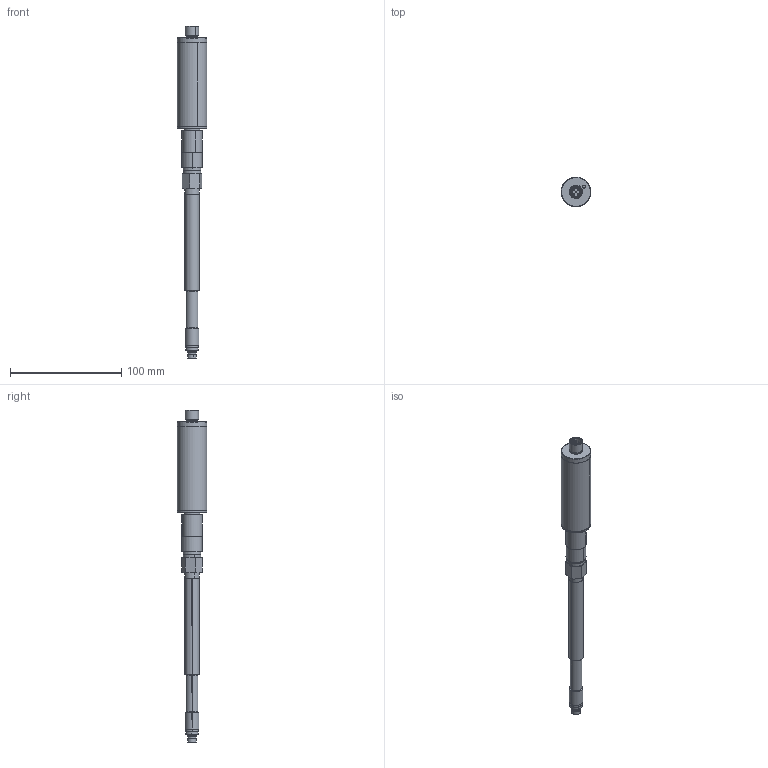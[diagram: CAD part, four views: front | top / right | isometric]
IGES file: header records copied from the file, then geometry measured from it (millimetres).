
Start section: SolidWorks IGES file using analytic representation for surfaces
Global section: file name: C:\Users\daniele.peli\Desktop\Simona\ILI0-A-5-x-xxxx-1-4-0-0.IGS; native system: SolidWorks 2021; preprocessor: SolidWorks 2021; author: daniele.peli; date: 210204.140113; units: millimetre
Bounding box: 26.5 x 26.5 x 298.4 mm (x, y, z)
Surface area: 18198.1 mm2 (no closed solid volume)
Topology: 0 solids, 0 shells, 147 faces, 2051 edges, 2041 vertices
Faces by surface type: revolution 78, bspline 69
